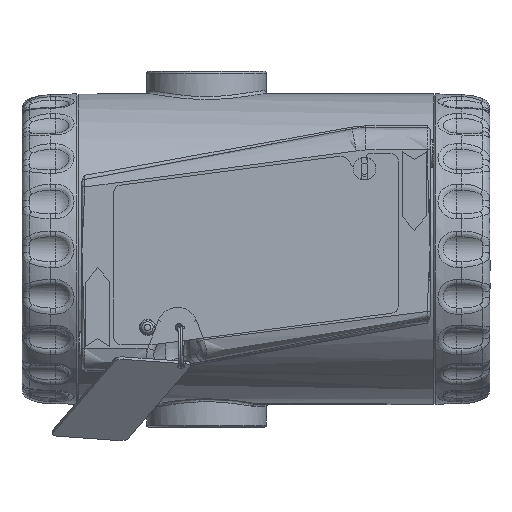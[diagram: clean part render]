
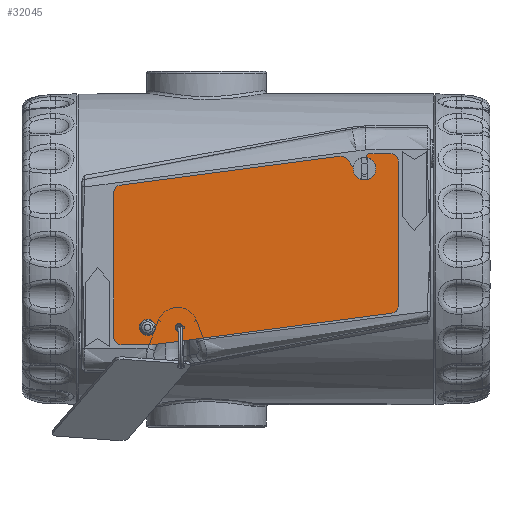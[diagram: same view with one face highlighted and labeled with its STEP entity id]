
A CAD part, left-side view. The second image highlights one B-rep face of the part: STEP entity #32045.
In plain terms, the highlighted planar face has unit normal (-1, 0, 0) as drawn and (0, 0, 1) by its records, which use the part's own axes.
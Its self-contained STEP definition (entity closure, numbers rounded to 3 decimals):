
#2492=FACE_BOUND('',#10472,.T.);
#2493=FACE_BOUND('',#10473,.T.);
#3020=PLANE('',#36156);
#4501=LINE('',#74790,#6023);
#4505=LINE('',#74802,#6027);
#4509=LINE('',#74814,#6031);
#4513=LINE('',#74826,#6035);
#4517=LINE('',#74838,#6039);
#4520=LINE('',#74844,#6042);
#4524=LINE('',#74856,#6046);
#4528=LINE('',#74867,#6050);
#6023=VECTOR('',#44801,10.);
#6027=VECTOR('',#44813,10.);
#6031=VECTOR('',#44825,10.);
#6035=VECTOR('',#44837,10.);
#6039=VECTOR('',#44849,10.);
#6042=VECTOR('',#44854,10.);
#6046=VECTOR('',#44866,10.);
#6050=VECTOR('',#44878,10.);
#8428=FACE_OUTER_BOUND('',#10471,.T.);
#10471=EDGE_LOOP('',(#29672,#29673,#29674,#29675,#29676,#29677,#29678,#29679,
#29680,#29681,#29682,#29683,#29684,#29685,#29686));
#10472=EDGE_LOOP('',(#29687));
#10473=EDGE_LOOP('',(#29688));
#12536=CIRCLE('',#36122,1.35);
#12538=CIRCLE('',#36125,1.);
#12539=CIRCLE('',#36127,2.);
#12541=CIRCLE('',#36131,2.);
#12543=CIRCLE('',#36135,1.);
#12545=CIRCLE('',#36139,2.);
#12547=CIRCLE('',#36143,2.);
#12549=CIRCLE('',#36148,2.);
#12551=CIRCLE('',#36152,2.);
#15451=VERTEX_POINT('',#74770);
#15453=VERTEX_POINT('',#74776);
#15454=VERTEX_POINT('',#74780);
#15455=VERTEX_POINT('',#74781);
#15458=VERTEX_POINT('',#74789);
#15460=VERTEX_POINT('',#74795);
#15462=VERTEX_POINT('',#74801);
#15464=VERTEX_POINT('',#74807);
#15466=VERTEX_POINT('',#74813);
#15468=VERTEX_POINT('',#74819);
#15470=VERTEX_POINT('',#74825);
#15472=VERTEX_POINT('',#74831);
#15474=VERTEX_POINT('',#74837);
#15476=VERTEX_POINT('',#74843);
#15478=VERTEX_POINT('',#74849);
#15480=VERTEX_POINT('',#74855);
#15482=VERTEX_POINT('',#74861);
#20182=EDGE_CURVE('',#15451,#15451,#12536,.T.);
#20185=EDGE_CURVE('',#15453,#15453,#12538,.T.);
#20186=EDGE_CURVE('',#15454,#15455,#12539,.T.);
#20190=EDGE_CURVE('',#15455,#15458,#4501,.T.);
#20193=EDGE_CURVE('',#15458,#15460,#12541,.T.);
#20196=EDGE_CURVE('',#15460,#15462,#4505,.T.);
#20199=EDGE_CURVE('',#15462,#15464,#12543,.T.);
#20202=EDGE_CURVE('',#15464,#15466,#4509,.T.);
#20205=EDGE_CURVE('',#15466,#15468,#12545,.T.);
#20208=EDGE_CURVE('',#15468,#15470,#4513,.T.);
#20211=EDGE_CURVE('',#15470,#15472,#12547,.T.);
#20214=EDGE_CURVE('',#15472,#15474,#4517,.T.);
#20217=EDGE_CURVE('',#15474,#15476,#4520,.T.);
#20220=EDGE_CURVE('',#15476,#15478,#12549,.T.);
#20223=EDGE_CURVE('',#15478,#15480,#4524,.T.);
#20226=EDGE_CURVE('',#15480,#15482,#12551,.T.);
#20229=EDGE_CURVE('',#15482,#15454,#4528,.T.);
#29672=ORIENTED_EDGE('',*,*,#20186,.F.);
#29673=ORIENTED_EDGE('',*,*,#20229,.F.);
#29674=ORIENTED_EDGE('',*,*,#20226,.F.);
#29675=ORIENTED_EDGE('',*,*,#20223,.F.);
#29676=ORIENTED_EDGE('',*,*,#20220,.F.);
#29677=ORIENTED_EDGE('',*,*,#20217,.F.);
#29678=ORIENTED_EDGE('',*,*,#20214,.F.);
#29679=ORIENTED_EDGE('',*,*,#20211,.F.);
#29680=ORIENTED_EDGE('',*,*,#20208,.F.);
#29681=ORIENTED_EDGE('',*,*,#20205,.F.);
#29682=ORIENTED_EDGE('',*,*,#20202,.F.);
#29683=ORIENTED_EDGE('',*,*,#20199,.F.);
#29684=ORIENTED_EDGE('',*,*,#20196,.F.);
#29685=ORIENTED_EDGE('',*,*,#20193,.F.);
#29686=ORIENTED_EDGE('',*,*,#20190,.F.);
#29687=ORIENTED_EDGE('',*,*,#20182,.T.);
#29688=ORIENTED_EDGE('',*,*,#20185,.T.);
#32045=ADVANCED_FACE('',(#8428,#2492,#2493),#3020,.T.);
#36122=AXIS2_PLACEMENT_3D('',#74772,#44782,#44783);
#36125=AXIS2_PLACEMENT_3D('',#74778,#44789,#44790);
#36127=AXIS2_PLACEMENT_3D('',#74782,#44793,#44794);
#36131=AXIS2_PLACEMENT_3D('',#74796,#44806,#44807);
#36135=AXIS2_PLACEMENT_3D('',#74808,#44818,#44819);
#36139=AXIS2_PLACEMENT_3D('',#74820,#44830,#44831);
#36143=AXIS2_PLACEMENT_3D('',#74832,#44842,#44843);
#36148=AXIS2_PLACEMENT_3D('',#74850,#44859,#44860);
#36152=AXIS2_PLACEMENT_3D('',#74862,#44871,#44872);
#36156=AXIS2_PLACEMENT_3D('',#74870,#44882,#44883);
#44782=DIRECTION('center_axis',(0.,0.,-1.));
#44783=DIRECTION('ref_axis',(-1.,0.,0.));
#44789=DIRECTION('center_axis',(0.,0.,-1.));
#44790=DIRECTION('ref_axis',(-1.,0.,0.));
#44793=DIRECTION('center_axis',(0.,0.,-1.));
#44794=DIRECTION('ref_axis',(0.766,0.643,0.));
#44801=DIRECTION('',(0.643,-0.766,0.));
#44806=DIRECTION('center_axis',(0.,0.,1.));
#44807=DIRECTION('ref_axis',(0.766,0.643,0.));
#44813=DIRECTION('',(-0.643,0.766,0.));
#44818=DIRECTION('center_axis',(0.,0.,-1.));
#44819=DIRECTION('ref_axis',(0.,1.,0.));
#44825=DIRECTION('',(1.,0.,0.));
#44830=DIRECTION('center_axis',(0.,0.,-1.));
#44831=DIRECTION('ref_axis',(1.,0.,0.));
#44837=DIRECTION('',(0.,-1.,0.));
#44842=DIRECTION('center_axis',(0.,0.,-1.));
#44843=DIRECTION('ref_axis',(0.131,-0.991,0.));
#44849=DIRECTION('',(-0.991,-0.131,0.));
#44854=DIRECTION('',(-1.,0.,0.));
#44859=DIRECTION('center_axis',(0.,0.,-1.));
#44860=DIRECTION('ref_axis',(-1.,0.,0.));
#44866=DIRECTION('',(0.,1.,0.));
#44871=DIRECTION('center_axis',(0.,0.,-1.));
#44872=DIRECTION('ref_axis',(-0.131,0.991,0.));
#44878=DIRECTION('',(0.991,0.131,0.));
#44882=DIRECTION('center_axis',(0.,0.,1.));
#44883=DIRECTION('ref_axis',(1.,0.,0.));
#74770=CARTESIAN_POINT('',(10.35,4.599,0.7));
#74772=CARTESIAN_POINT('Origin',(9.,4.599,0.7));
#74776=CARTESIAN_POINT('',(18.4,4.599,0.7));
#74778=CARTESIAN_POINT('Origin',(17.4,4.599,0.7));
#74780=CARTESIAN_POINT('',(60.389,50.327,0.7));
#74781=CARTESIAN_POINT('',(62.182,49.63,0.7));
#74782=CARTESIAN_POINT('Origin',(60.65,48.344,0.7));
#74789=CARTESIAN_POINT('',(65.468,45.714,0.7));
#74790=CARTESIAN_POINT('',(65.468,45.714,0.7));
#74795=CARTESIAN_POINT('',(68.532,48.286,0.7));
#74796=CARTESIAN_POINT('Origin',(67.,47.,0.7));
#74801=CARTESIAN_POINT('',(67.633,49.357,0.7));
#74802=CARTESIAN_POINT('',(67.633,49.357,0.7));
#74807=CARTESIAN_POINT('',(68.399,51.,0.7));
#74808=CARTESIAN_POINT('Origin',(68.399,50.,0.7));
#74813=CARTESIAN_POINT('',(74.,51.,0.7));
#74814=CARTESIAN_POINT('',(74.,51.,0.7));
#74819=CARTESIAN_POINT('',(76.,49.,0.7));
#74820=CARTESIAN_POINT('Origin',(74.,49.,0.7));
#74825=CARTESIAN_POINT('',(76.,10.377,0.7));
#74826=CARTESIAN_POINT('',(76.,10.377,0.7));
#74831=CARTESIAN_POINT('',(74.261,8.394,0.7));
#74832=CARTESIAN_POINT('Origin',(74.,10.377,0.7));
#74837=CARTESIAN_POINT('',(10.5,0.,0.7));
#74838=CARTESIAN_POINT('',(10.5,0.,0.7));
#74843=CARTESIAN_POINT('',(2.,0.,0.7));
#74844=CARTESIAN_POINT('',(2.,0.,0.7));
#74849=CARTESIAN_POINT('',(0.,2.,0.7));
#74850=CARTESIAN_POINT('Origin',(2.,2.,0.7));
#74855=CARTESIAN_POINT('',(0.,40.623,0.7));
#74856=CARTESIAN_POINT('',(0.,40.623,0.7));
#74861=CARTESIAN_POINT('',(1.739,42.606,0.7));
#74862=CARTESIAN_POINT('Origin',(2.,40.623,0.7));
#74867=CARTESIAN_POINT('',(60.389,50.327,0.7));
#74870=CARTESIAN_POINT('Origin',(39.077,26.228,0.7));
